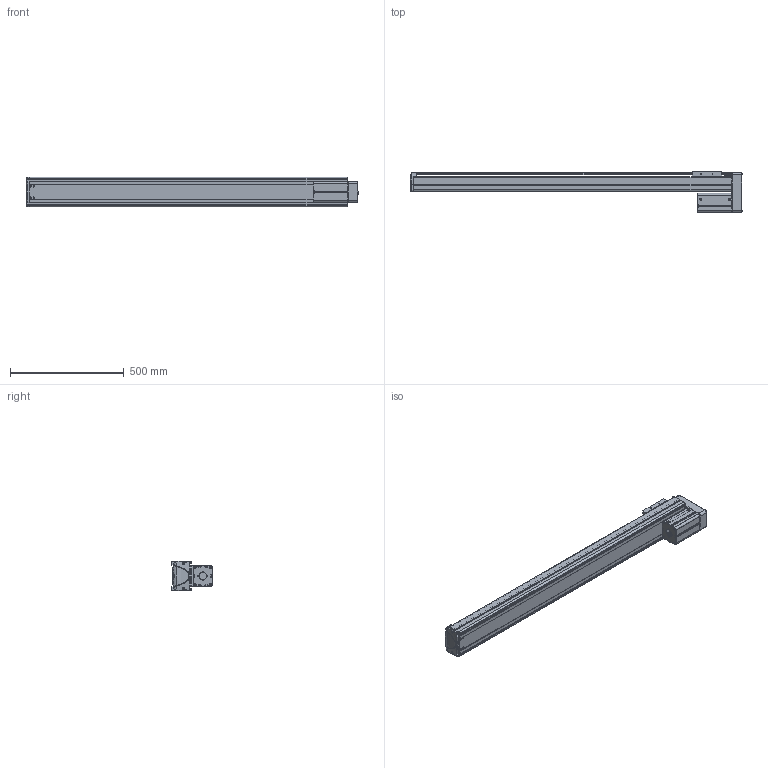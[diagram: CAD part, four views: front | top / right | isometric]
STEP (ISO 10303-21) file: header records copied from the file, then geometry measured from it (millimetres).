
FILE_DESCRIPTION((''),'2;1');
FILE_NAME('BE30E-UU-M_N-C0_IGS_PRT','2017-06-17T',(' '),(''),'PRO/ENGINEER BY PARAMETRIC TECHNOLOGY CORPORATION, 2015030','PRO/ENGINEER BY PARAMETRIC TECHNOLOGY CORPORATION, 2015030','');
FILE_SCHEMA(('CONFIG_CONTROL_DESIGN'));
Length unit declared in the file: millimetre
Products named in the file (1): BE30E-UU-M_N-C0_IGS_PRT
Bounding box: 1461.9 x 180 x 130 mm (x, y, z)
Volume: 4682195.6 mm3; surface area: 1951064.2 mm2
Topology: 2 solids, 136 shells, 2096 faces, 5676 edges, 3689 vertices
Faces by surface type: plane 1003, cylinder 899, cone 105, torus 37, bspline 28, sphere 24
Entity records: 68172 total; most frequent: CARTESIAN_POINT 14497, DIRECTION 11338, ORIENTED_EDGE 10766, EDGE_CURVE 5638, AXIS2_PLACEMENT_3D 4015, VERTEX_POINT 3689, VECTOR 3308, LINE 3308
